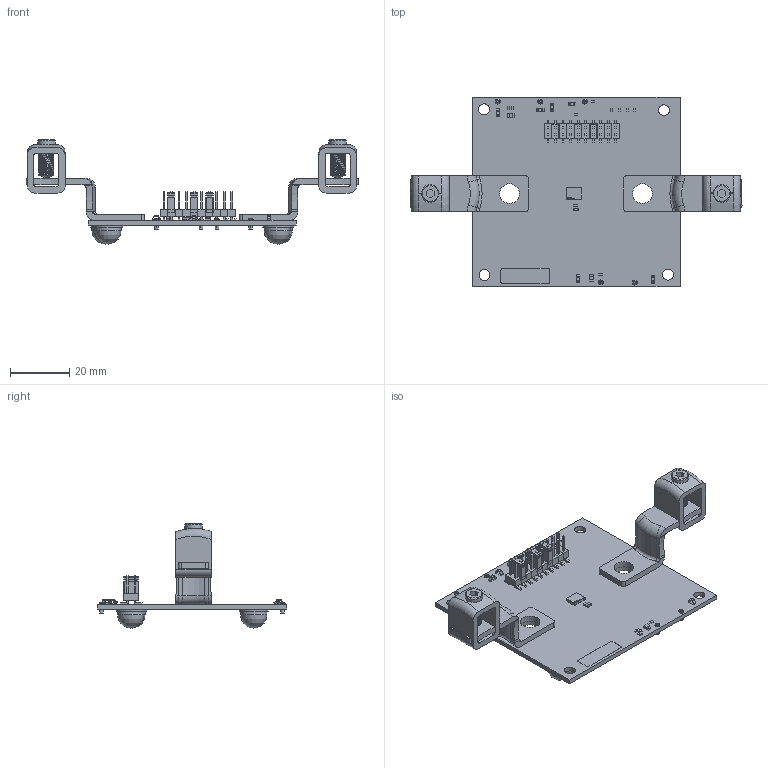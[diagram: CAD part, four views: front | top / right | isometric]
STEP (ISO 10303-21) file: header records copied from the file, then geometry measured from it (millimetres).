
FILE_DESCRIPTION(('Open CASCADE Model'),'2;1');
FILE_NAME('Open CASCADE Shape Model','2024-10-17T22:22:36',('Author'),( 'Open CASCADE'),'Open CASCADE STEP processor 7.5','Open CASCADE 7.5' ,'Unknown');
FILE_SCHEMA(('AUTOMOTIVE_DESIGN { 1 0 10303 214 1 1 1 1 }'));
Length unit declared in the file: millimetre
Products named in the file (75): PCB; Board; Open CASCADE STEP translator 7.5 3.1.1; LBL1; 6193336032; Extruded; R8; 6193335952; 6193335792; R1; 6193335072; 6193334912; J3; Samtec_TSM-110-01-T; Samtec-TSM-102-01-T; R6; R7; R10; SH-J3; Sullins_SPC02SYAN; SH-J2; SH-J1; TP6; keystone_5015; TP5; TP4; R4; J8; Conn_3-331272-8_PIN_RCPT; J7; J6; J2; R9; U1; IC_INA750AIREMR_VQFN14; body; pins; logo; H4; 3M_SJ61A2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
Assembly tree (125 placements, depth 4):
  PCB
    Board
      Open CASCADE STEP translator 7.5 3.1.1
    LBL1
      6193336032
        Extruded
    R8
      6193335952  x2
        Extruded
      6193335792
        Extruded
    R1
      6193335072  x2
        Extruded
      6193334912
        Extruded
    J3
      Samtec_TSM-110-01-T
        Samtec-TSM-102-01-T  x10
    R6
      6193335952  x2
        Extruded
      6193335792
        Extruded
    R7
      6193335952  x2
        Extruded
      6193335792
        Extruded
    R10
      6193335072  x2
        Extruded
      6193334912
        Extruded
    SH-J3
      Sullins_SPC02SYAN
    SH-J2
      Sullins_SPC02SYAN
    SH-J1
      Sullins_SPC02SYAN
    TP6
      keystone_5015
    TP5
      keystone_5015
    TP4
      keystone_5015
    R4
      6193335072  x2
        Extruded
      6193334912
        Extruded
    J8
      Conn_3-331272-8_PIN_RCPT
    J7
      Conn_3-331272-8_PIN_RCPT
    J6
      Conn_3-331272-8_PIN_RCPT
    J2
      Conn_3-331272-8_PIN_RCPT
    R9
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Bounding box: 112 x 63.98 x 35.09 mm (x, y, z)
Volume: 13747.9 mm3; surface area: 18491.4 mm2
Topology: 111 solids, 111 shells, 1891 faces, 4642 edges, 3016 vertices
Faces by surface type: plane 1203, bspline 272, cylinder 264, revolution 112, torus 28, sphere 8, cone 4
Full cylindrical faces by diameter (mm): 0.005 x4, 0.208 x1, 1.32 x5, 3.683 x4, 5 x30, 5.885 x2, 6.7 x4, 8.845 x4, 9.78 x4
Entity records: 45489 total; most frequent: CARTESIAN_POINT 20608, ORIENTED_EDGE 5048, DIRECTION 4240, EDGE_CURVE 2524, LINE 1753, VECTOR 1753, VERTEX_POINT 1656, AXIS2_PLACEMENT_3D 1225
